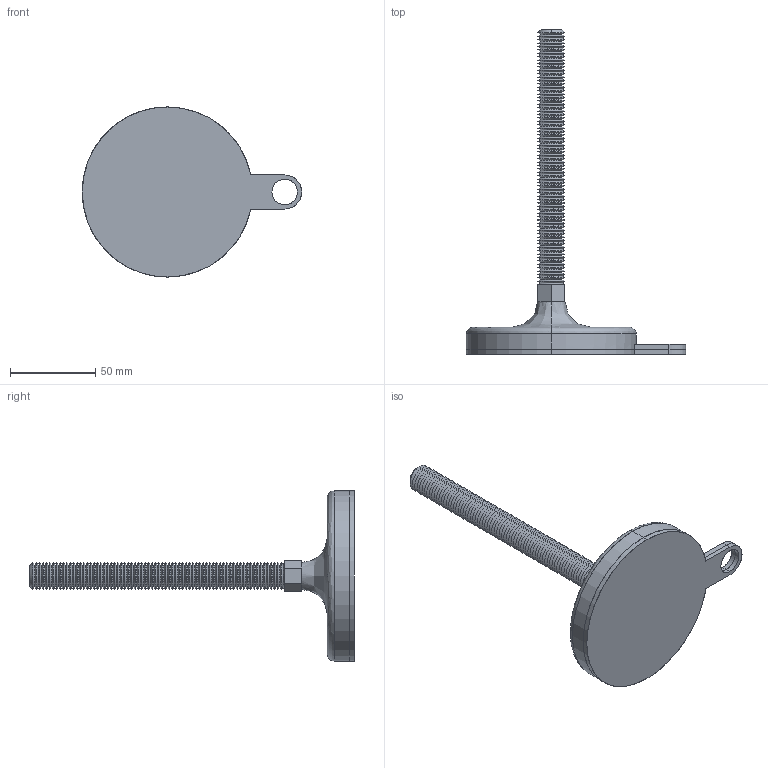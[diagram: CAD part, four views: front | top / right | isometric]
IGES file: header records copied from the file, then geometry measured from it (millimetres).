
Start section: SolidWorks IGES file using analytic representation for surfaces
Global section: file name: C:\Users\liam_\OneDrive\Documents\WORK\Work for WixRoyd\Job Files\J-00026 - Matt Davis CAD - 20191124\04. CAD Drawings\Wixroyd20191124\34704_v2\34704_v2_20191128_IGES\34704.W1606.igs; native system: SolidWorks 2017; preprocessor: SolidWorks 2017; author: liam_; date: 191128.202612; units: millimetre
Bounding box: 129 x 191 x 100 mm (x, y, z)
Surface area: 52385.2 mm2 (no closed solid volume)
Topology: 0 solids, 0 shells, 341 faces, 1996 edges, 1996 vertices
Faces by surface type: revolution 309, bspline 32
